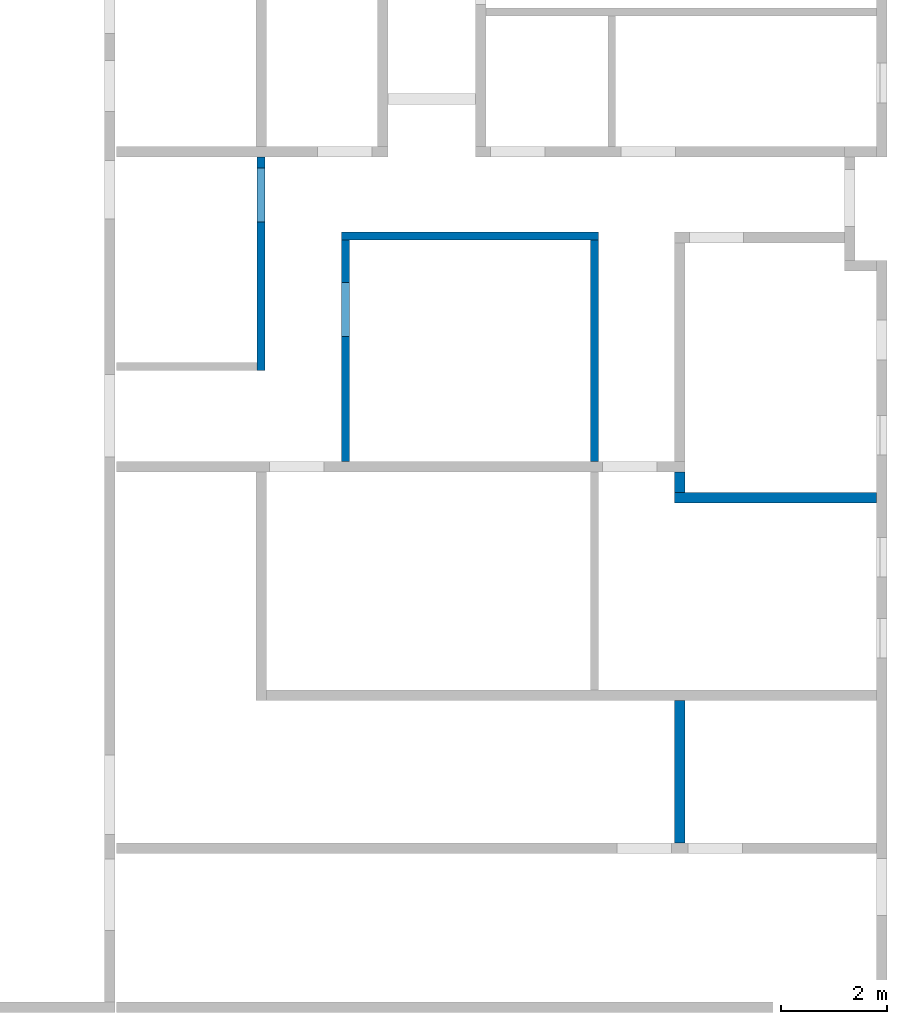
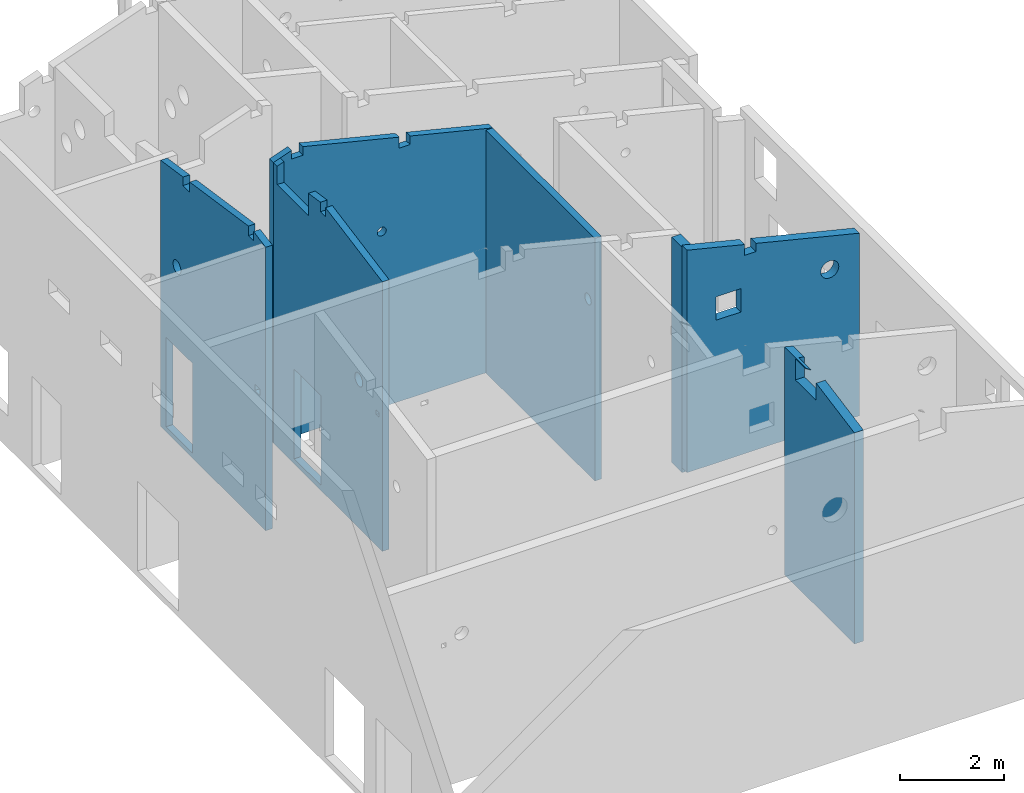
# One storey, part 7 of 13: 7 walls, 18 openings.
"""IFC2X3 building model written with IfcOpenShell, lengths in metres."""

from ifc_helpers import new_model, entity, si_unit, converted_unit, direction, frame, frame_2d, origin, origin_with_axes, place, context, subcontext, project, spatial, polyline, rectangle, outline, extrude, clip, halfspace, bounded_halfspace, material, layer, layer_set, layer_usage, element, save


model = new_model("IFC2X3")

# Units and contexts
model_context = context("Model", 3, precision=1e-05, world=origin(), true_north=direction((-0.407059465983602, -0.913401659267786)))
body_context = subcontext(model_context, "Body", "Model", "MODEL_VIEW")
ifc_project = project(units=[si_unit("LENGTHUNIT", "METRE"), si_unit("AREAUNIT", "SQUARE_METRE"), si_unit("VOLUMEUNIT", "CUBIC_METRE"), si_unit("MASSUNIT", "GRAM", prefix="KILO"), converted_unit("PLANEANGLEUNIT", "DEGREE", entity("IfcPlaneAngleMeasure", 0.0174532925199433), si_unit("PLANEANGLEUNIT", "RADIAN"), dimensions=[0, 0, 0, 0, 0, 0, 0])], contexts=[model_context])

# Site, buildings, storey
site_placement = place(None, origin())
site = spatial("IfcSite", under=ifc_project, at=site_placement, Name="Site", CompositionType="ELEMENT")
building_1_placement = place(site_placement, origin())
building_1 = spatial("IfcBuilding", under=site, at=building_1_placement, Name="Site", CompositionType="COMPLEX")
building_2_placement = place(building_1_placement, origin())
building_2 = spatial("IfcBuilding", under=building_1, at=building_2_placement, Name="Bâtiments", CompositionType="ELEMENT")
storey_placement = place(building_2_placement, frame((0.0, 0.0, -0.14)))
storey = spatial("IfcBuildingStorey", under=building_2, at=storey_placement, Name="RDC", CompositionType="ELEMENT", Elevation=-0.14)

# Wall, openings
ifc_material_1 = material(Name="Mur_Maconnerie")
ifc_layer_1 = layer(ifc_material_1, 0.15)
ifc_layer_set_1 = layer_set([ifc_layer_1])
ifc_layer_usage_1 = layer_usage(ifc_layer_set_1, "AXIS2", "POSITIVE", -0.15)
wall_1_placement = place(storey_placement, frame((66.0977270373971, -9.45744414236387, 0.02), z_axis=(0.0, 0.0, 1.0), x_axis=(0.0, -1.0, 0.0)))
wall_1 = element("IfcWallStandardCase", 1, at=wall_1_placement, inside=storey, material=ifc_layer_usage_1, context=body_context, shape_type="Clipping", body=[
    clip(clip(extrude(outline(polyline([(-4.03590318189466, 0.0), (0.0, 0.0), (-2.57926981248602e-06, 0.15), (-4.03590284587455, 0.15), (-4.03590318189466, 0.0)])), frame((4.03590318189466, 0.0, 0.0), z_axis=(0.0, 0.0, 1.0), x_axis=(1.0, 0.0, 0.0)), (0.0, 0.0, 1.0), 6.7565700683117), bounded_halfspace(frame((1.73045202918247, 0.075, 6.49887845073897), z_axis=(0.147291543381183, 2.15176853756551e-06, -0.989093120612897), x_axis=(0.989093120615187, 0.0, 0.147291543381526)), True, origin_with_axes(), polyline([(0.0, 0.0), (3.46090443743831, 0.0), (3.46090334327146, 0.15), (3.36020111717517e-07, 0.15), (0.0, 0.0)]))), bounded_halfspace(frame((3.74840289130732, 0.075, 6.70198659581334), z_axis=(-0.18652403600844, -2.90466630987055e-07, -0.982450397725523), x_axis=(0.982450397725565, 0.0, -0.186524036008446)), True, origin_with_axes(), polyline([(3.46090443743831, 0.0), (4.03590318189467, 0.0), (4.03590060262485, 0.15), (3.46090334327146, 0.15), (3.46090443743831, 0.0)]))),
])
opening_1_placement = place(wall_1_placement, frame((3.82014395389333, 0.15, 3.04), z_axis=(0.0, -1.0, 0.0), x_axis=(0.0, 0.0, 1.0)))
element("IfcOpeningElement", 2, at=opening_1_placement, cuts=wall_1, Name="Percement dans mur", ObjectType="Opening", context=body_context, shape_type="SweptSolid", body=[
    extrude(outline(polyline([(0.0, 0.2), (0.15, 0.2), (0.15, 0.0), (0.0, 0.0), (0.0, 0.2)])), origin_with_axes(), (0.0, 0.0, 1.0), 0.15),
])
opening_2_placement = place(wall_1_placement, frame((3.3735965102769, 0.0, 6.52), z_axis=(0.0, 1.0, 0.0), x_axis=(0.0, 0.0, 1.0)))
element("IfcOpeningElement", 3, at=opening_2_placement, cuts=wall_1, Name="Percement dans mur", ObjectType="Opening", context=body_context, shape_type="SweptSolid", body=[
    extrude(outline(polyline([(0.0, 0.2), (0.24, 0.2), (0.24, 0.0), (0.0, 0.0), (0.0, 0.2)])), origin_with_axes(), (0.0, 0.0, 1.0), 0.15),
])
opening_3_placement = place(wall_1_placement, frame((1.22962160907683, 0.15, 0.12), z_axis=(0.0, -1.0, 0.0), x_axis=(0.0, 0.0, 1.0)))
element("IfcOpeningElement", 4, at=opening_3_placement, cuts=wall_1, Name="Baie de porte", ObjectType="Opening", context=body_context, shape_type="SweptSolid", body=[
    extrude(outline(polyline([(0.0, 1.02), (2.1, 1.02), (2.1, 0.0), (0.0, 0.0), (0.0, 1.02)])), origin_with_axes(), (0.0, 0.0, 1.0), 0.15),
])
opening_4_placement = place(wall_1_placement, frame((0.864363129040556, 0.0, 6.17), z_axis=(0.0, 1.0, 0.0), x_axis=(0.0, 0.0, 1.0)))
element("IfcOpeningElement", 5, at=opening_4_placement, cuts=wall_1, Name="Percement dans mur", ObjectType="Opening", context=body_context, shape_type="SweptSolid", body=[
    extrude(outline(polyline([(0.0, 0.25), (0.24, 0.25), (0.24, 0.0), (0.0, 0.0), (0.0, 0.25)])), origin_with_axes(), (0.0, 0.0, 1.0), 0.15),
])
opening_5_placement = place(wall_1_placement, frame((0.780012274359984, 0.15, 3.97), z_axis=(0.0, -1.0, 0.0), x_axis=(0.0, 0.0, 1.0)))
element("IfcOpeningElement", 6, at=opening_5_placement, cuts=wall_1, Name="CVC-130", ObjectType="Opening", context=body_context, shape_type="SweptSolid", body=[
    extrude(outline(polyline([(0.149999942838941, 0.0), (0.134320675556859, 0.000821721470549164), (0.118813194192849, 0.00327787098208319), (0.103647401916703, 0.00734153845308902), (0.0889894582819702, 0.0129682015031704), (0.0749999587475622, 0.0200962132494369), (0.0618321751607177, 0.0286474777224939), (0.0496303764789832, 0.0385283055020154), (0.0385282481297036, 0.0496304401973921), (0.0286474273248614, 0.0618322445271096), (0.0200961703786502, 0.0750000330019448), (0.0129681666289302, 0.0889895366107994), (0.00734151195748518, 0.103647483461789), (0.00327785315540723, 0.118813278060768), (0.000821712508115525, 0.134320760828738), (0.0, 0.150000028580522), (0.000821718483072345, 0.165679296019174), (0.00327786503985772, 0.181186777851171), (0.00734152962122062, 0.196352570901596), (0.0129681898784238, 0.211010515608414), (0.0200961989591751, 0.225000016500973), (0.0286474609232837, 0.238167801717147), (0.0385282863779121, 0.250369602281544), (0.0496304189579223, 0.261471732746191), (0.0618322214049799, 0.271352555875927), (0.0750000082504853, 0.279903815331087), (0.0889895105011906, 0.287031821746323), (0.103647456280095, 0.292658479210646), (0.118813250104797, 0.296722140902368), (0.13432073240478, 0.299178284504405), (0.149999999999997, 0.3), (0.165679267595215, 0.299178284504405), (0.181186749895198, 0.296722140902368), (0.1963525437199, 0.292658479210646), (0.211010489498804, 0.287031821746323), (0.224999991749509, 0.279903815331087), (0.238167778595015, 0.271352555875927), (0.250369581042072, 0.261471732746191), (0.261471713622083, 0.250369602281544), (0.271352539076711, 0.238167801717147), (0.279903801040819, 0.225000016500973), (0.287031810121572, 0.211010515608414), (0.292658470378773, 0.196352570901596), (0.296722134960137, 0.181186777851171), (0.299178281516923, 0.165679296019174), (0.299999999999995, 0.150000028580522), (0.299178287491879, 0.134320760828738), (0.296722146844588, 0.118813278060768), (0.292658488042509, 0.103647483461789), (0.287031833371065, 0.0889895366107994), (0.279903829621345, 0.0750000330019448), (0.271352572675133, 0.0618322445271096), (0.261471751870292, 0.0496304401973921), (0.250369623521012, 0.0385283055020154), (0.238167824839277, 0.0286474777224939), (0.225000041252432, 0.0200962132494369), (0.211010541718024, 0.0129682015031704), (0.196352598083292, 0.00734153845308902), (0.181186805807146, 0.00327787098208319), (0.165679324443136, 0.000821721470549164), (0.149999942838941, 0.0)])), origin_with_axes(), (0.0, 0.0, 1.0), 0.15),
])

ifc_material_2 = material(Name="Mur_Maconnerie")
ifc_layer_2 = layer(ifc_material_2, 0.149999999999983)
ifc_layer_set_2 = layer_set([ifc_layer_2])
ifc_layer_usage_2 = layer_usage(ifc_layer_set_2, "AXIS2", "POSITIVE", -0.149999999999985)
wall_2_placement = place(storey_placement, frame((67.8429774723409, -15.2132553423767, 0.0199999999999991), z_axis=(0.0, 0.0, 1.0), x_axis=(6.32869772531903e-07, 0.9999999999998, 0.0)))
wall_2 = element("IfcWallStandardCase", 7, at=wall_2_placement, inside=storey, material=ifc_layer_usage_2, context=body_context, shape_type="Clipping", body=[
    clip(clip(clip(extrude(outline(polyline([(9.50006988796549e-08, -0.149999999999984), (4.18562001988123, -0.149999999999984), (4.18562024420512, -1.6359327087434e-15), (0.0, 0.0), (9.50006988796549e-08, -0.149999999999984)])), frame((-9.50006988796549e-08, 0.149999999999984, 0.0), z_axis=(0.0, 0.0, 1.0), x_axis=(1.0, 0.0, 0.0)), (0.0, 0.0, 1.0), 6.7565718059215), bounded_halfspace(frame((3.75236550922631, 0.0749999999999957, 6.60541648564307), z_axis=(2.11776796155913e-07, -0.33462934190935, -0.942349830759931), x_axis=(-0.999999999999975, 7.60647858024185e-15, -2.2473267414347e-07)), True, origin_with_axes(), polyline([(4.18562014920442, 0.149999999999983), (3.49771507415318, 0.149999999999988), (3.14050688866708, -2.7943897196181e-15), (4.18561992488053, 0.0), (4.18562014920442, 0.149999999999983)]))), bounded_halfspace(frame((2.80701494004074, 0.0749999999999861, 6.68031255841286), z_axis=(-0.147291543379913, -2.24498460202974e-06, -0.989093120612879), x_axis=(7.92731541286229e-06, -0.999999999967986, 1.08923851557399e-06)), True, origin_with_axes(), polyline([(2.2949183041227, 0.149999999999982), (2.29491949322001, -8.33171509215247e-15), (3.14050688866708, -2.79438841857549e-15), (3.49771507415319, 0.149999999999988), (2.2949183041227, 0.149999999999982)]))), bounded_halfspace(frame((1.1474594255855, 0.0749999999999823, 6.53871973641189), z_axis=(0.186524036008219, 4.08512054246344e-07, -0.982450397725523), x_axis=(0.982450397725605, -3.56679030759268e-15, 0.186524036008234)), True, origin_with_axes(), polyline([(0.0, 0.0), (2.29491949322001, -8.33171509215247e-15), (2.2949183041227, 0.149999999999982), (-9.50006988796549e-08, 0.149999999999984), (0.0, 0.0)]))),
])
opening_6_placement = place(wall_2_placement, frame((0.135286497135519, -5.16246741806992e-15, 3.07), z_axis=(5.68434188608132e-15, 1.0, 0.0), x_axis=(0.0, 0.0, 1.0)))
element("IfcOpeningElement", 8, at=opening_6_placement, cuts=wall_2, Name="PB-RDC-34", ObjectType="Opening", context=body_context, shape_type="SweptSolid", body=[
    extrude(outline(polyline([(0.0, 0.1), (0.1, 0.1), (0.1, 0.0), (0.0, 0.0), (0.0, 0.1)])), origin_with_axes(), (0.0, 0.0, 1.0), 0.149999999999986),
])
opening_7_placement = place(wall_2_placement, frame((0.755250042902, 8.60892889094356e-15, 3.33), z_axis=(5.30538576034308e-15, 1.0, 0.0), x_axis=(0.0, 0.0, 1.0)))
element("IfcOpeningElement", 9, at=opening_7_placement, cuts=wall_2, Name="CVC-102", ObjectType="Opening", context=body_context, shape_type="SweptSolid", body=[
    extrude(outline(polyline([(0.150000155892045, 0.0), (0.134320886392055, 0.000821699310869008), (0.118813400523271, 0.00327782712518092), (0.103647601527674, 0.00734147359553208), (0.0889896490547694, 0.0129681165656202), (0.0750001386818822, 0.0200961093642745), (0.0618323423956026, 0.0286473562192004), (0.049630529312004, 0.0385281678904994), (0.0385283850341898, 0.049630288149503), (0.0286475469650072, 0.0618320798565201), (0.0200962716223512, 0.0749998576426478), (0.0129682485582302, 0.0889893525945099), (0.00734157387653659, 0.103647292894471), (0.00327789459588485, 0.118813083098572), (0.000821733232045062, 0.134320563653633), (0.0, 0.149999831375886), (0.000821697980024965, 0.165679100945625), (0.00327782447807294, 0.181186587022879), (0.00734146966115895, 0.196352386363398), (0.0129681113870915, 0.211010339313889), (0.0200961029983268, 0.224999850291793), (0.0286473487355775, 0.238167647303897), (0.0385281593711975, 0.250369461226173), (0.0496302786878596, 0.261471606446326), (0.0618320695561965, 0.271352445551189), (0.0749998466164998, 0.279903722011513), (0.0889893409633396, 0.287031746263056), (0.103647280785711, 0.292658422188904), (0.11881307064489, 0.296722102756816), (0.134320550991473, 0.29917826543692), (0.14999981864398, 0.299999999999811), (0.165679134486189, 0.299178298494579), (0.181186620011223, 0.296722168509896), (0.196352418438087, 0.292658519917), (0.211010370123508, 0.28703187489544), (0.224999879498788, 0.279903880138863), (0.238167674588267, 0.271352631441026), (0.250369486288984, 0.261471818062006), (0.261471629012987, 0.250369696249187), (0.271352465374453, 0.238167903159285), (0.279903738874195, 0.225000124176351), (0.287031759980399, 0.211010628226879), (0.292658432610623, 0.196352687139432), (0.296722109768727, 0.181186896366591), (0.299178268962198, 0.165679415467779), (0.299999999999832, 0.150000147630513), (0.299178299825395, 0.134320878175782), (0.296722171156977, 0.118813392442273), (0.292658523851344, 0.103647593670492), (0.287031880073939, 0.0889896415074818), (0.279903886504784, 0.0750001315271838), (0.271352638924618, 0.0618323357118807), (0.261471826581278, 0.0496305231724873), (0.250369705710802, 0.0385283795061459), (0.238167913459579, 0.0286475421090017), (0.225000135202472, 0.0200962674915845), (0.21101063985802, 0.0129682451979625), (0.19635269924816, 0.00734157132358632), (0.181186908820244, 0.00327789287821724), (0.165679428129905, 0.000821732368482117), (0.150000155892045, 0.0)])), origin_with_axes(), (0.0, 0.0, 1.0), 0.149999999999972),
])
opening_8_placement = place(wall_2_placement, frame((2.36478815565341, 9.66482536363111e-16, 0.120000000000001), z_axis=(-6.06329801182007e-15, 1.0, 0.0), x_axis=(0.0, 0.0, 1.0)))
element("IfcOpeningElement", 10, at=opening_8_placement, cuts=wall_2, Name="Baie de porte", ObjectType="Opening", context=body_context, shape_type="SweptSolid", body=[
    extrude(outline(polyline([(0.0, 1.02), (2.1, 1.02), (2.1, 0.0), (0.0, 0.0), (0.0, 1.02)])), origin_with_axes(), (0.0, 0.0, 1.0), 0.149999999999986),
])
opening_9_placement = place(wall_2_placement, frame((4.04236882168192, 0.149999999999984, 6.15), z_axis=(-6.06329801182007e-15, -1.0, 0.0), x_axis=(0.0, 0.0, 1.0)))
element("IfcOpeningElement", 11, at=opening_9_placement, cuts=wall_2, Name="Percement dans mur", ObjectType="Opening", context=body_context, shape_type="SweptSolid", body=[
    extrude(outline(polyline([(0.0, 1.2), (0.53, 1.2), (0.53, 0.0), (0.0, 0.0), (0.0, 1.2)])), origin_with_axes(), (0.0, 0.0, 1.0), 0.149999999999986),
])
opening_10_placement = place(wall_2_placement, frame((2.18229105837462, -3.22686538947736e-15, 6.52), z_axis=(6.06329801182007e-15, 1.0, 0.0), x_axis=(0.0, 0.0, 1.0)))
element("IfcOpeningElement", 12, at=opening_10_placement, cuts=wall_2, Name="Percement dans mur", ObjectType="Opening", context=body_context, shape_type="SweptSolid", body=[
    extrude(outline(polyline([(0.0, 0.2), (0.24, 0.2), (0.24, 0.0), (0.0, 0.0), (0.0, 0.2)])), origin_with_axes(), (0.0, 0.0, 1.0), 0.149999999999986),
])

# Wall, opening
ifc_material_3 = material(Name="Mur_Maconnerie")
ifc_layer_3 = layer(ifc_material_3, 0.150000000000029)
ifc_layer_set_3 = layer_set([ifc_layer_3])
ifc_layer_usage_3 = layer_usage(ifc_layer_set_3, "AXIS2", "POSITIVE", -0.150000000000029)
wall_3_placement = place(storey_placement, frame((72.4030135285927, -11.0276451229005, 0.02), z_axis=(0.0, 0.0, 1.0), x_axis=(-2.15885355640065e-06, -0.99999999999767, 0.0)))
wall_3 = element("IfcWallStandardCase", 13, at=wall_3_placement, inside=storey, material=ifc_layer_usage_3, context=body_context, shape_type="SweptSolid", body=[
    extrude(outline(polyline([(-4.18561021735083, 0.0), (0.0, 0.0), (-3.23898266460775e-07, 0.150000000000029), (-4.18561022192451, 0.150000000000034), (-4.18561021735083, 0.0)])), frame((4.18561021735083, 0.0, 0.0), z_axis=(0.0, 0.0, 1.0), x_axis=(1.0, 0.0, 0.0)), (0.0, 0.0, 1.0), 5.69122823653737),
])
opening_11_placement = place(wall_3_placement, frame((3.80060990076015, 3.83454535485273e-14, 3.99), z_axis=(2.42531920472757e-14, 1.0, 0.0), x_axis=(0.0, 0.0, 1.0)))
element("IfcOpeningElement", 14, at=opening_11_placement, cuts=wall_3, Name="CVC-107", ObjectType="Opening", context=body_context, shape_type="SweptSolid", body=[
    extrude(outline(polyline([(0.124999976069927, 0.250000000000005), (0.138066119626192, 0.249315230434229), (0.150989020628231, 0.247268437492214), (0.163627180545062, 0.243882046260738), (0.175842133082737, 0.239193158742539), (0.187500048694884, 0.233253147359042), (0.198473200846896, 0.226127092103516), (0.208641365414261, 0.217893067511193), (0.21789313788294, 0.208641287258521), (0.226127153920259, 0.198473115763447), (0.233253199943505, 0.187499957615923), (0.239193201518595, 0.175842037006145), (0.243882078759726, 0.163627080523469), (0.247268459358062, 0.150988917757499), (0.249315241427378, 0.13806601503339), (0.249999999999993, 0.124999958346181), (0.24931523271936, 0.111933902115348), (0.247268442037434, 0.0990110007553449), (0.243882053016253, 0.0863728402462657), (0.239193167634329, 0.0741578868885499), (0.233253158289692, 0.0624999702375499), (0.226127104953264, 0.0515268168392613), (0.217893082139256, 0.041358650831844), (0.208641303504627, 0.0321068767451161), (0.198473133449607, 0.0238728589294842), (0.18749997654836, 0.016746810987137), (0.175842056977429, 0.0108068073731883), (0.163627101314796, 0.00611792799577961), (0.150988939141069, 0.0027315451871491), (0.138066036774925, 0.000684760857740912), (0.124999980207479, 0.0), (0.111933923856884, 0.000684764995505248), (0.0990110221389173, 0.00273155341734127), (0.086372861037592, 0.00611794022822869), (0.0741579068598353, 0.0108068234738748), (0.0624999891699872, 0.0167468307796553), (0.0515268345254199, 0.0238728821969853), (0.0413586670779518, 0.0321069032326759), (0.0321068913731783, 0.0413586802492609), (0.0238728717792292, 0.0515268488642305), (0.016746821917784, 0.0625000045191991), (0.0108068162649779, 0.0741579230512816), (0.0061179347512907, 0.0863728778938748), (0.00273154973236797, 0.0990110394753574), (0.000684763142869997, 0.111933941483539), (0.0, 0.124999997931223), (0.000684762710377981, 0.138066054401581), (0.0027315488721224, 0.150988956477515), (0.00611793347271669, 0.163627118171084), (0.0108068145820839, 0.175842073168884), (0.0167468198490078, 0.187499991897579), (0.0238728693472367, 0.198473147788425), (0.0321068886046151, 0.208641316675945), (0.0413586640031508, 0.217893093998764), (0.0515268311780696, 0.226127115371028), (0.0624999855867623, 0.233253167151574), (0.0741579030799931, 0.239193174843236), (0.0863728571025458, 0.243882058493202), (0.0990110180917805, 0.24726844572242), (0.111933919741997, 0.249315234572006), (0.124999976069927, 0.250000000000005)])), origin_with_axes(), (0.0, 0.0, 1.0), 0.150000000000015),
])

# Wall, openings
ifc_material_4 = material(Name="Béton")
ifc_layer_4 = layer(ifc_material_4, 0.200000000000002)
ifc_layer_set_4 = layer_set([ifc_layer_4])
ifc_layer_usage_4 = layer_usage(ifc_layer_set_4, "AXIS2", "POSITIVE", -0.1)
wall_4_placement = place(storey_placement, frame((73.9928349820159, -16.0044764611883, 0.14), z_axis=(0.0, 0.0, 1.0), x_axis=(1.0, 4.68192282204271e-10, 0.0)))
wall_4 = element("IfcWallStandardCase", 15, at=wall_4_placement, inside=storey, material=ifc_layer_usage_4, context=body_context, shape_type="Clipping", body=[
    clip(extrude(outline(polyline([(9.36561264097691e-11, -4.38490755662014e-20), (3.82027095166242, -4.38492016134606e-20), (3.82027099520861, 0.200000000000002), (9.3638456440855e-11, 0.200000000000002), (9.36561264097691e-11, -4.38490755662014e-20)])), frame((-9.36561264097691e-11, 4.38490755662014e-20, 0.0), z_axis=(0.0, 0.0, 1.0), x_axis=(1.0, 0.0, 0.0)), (0.0, 0.0, 1.0), 5.2175741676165), halfspace(frame((1.91013548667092, 0.100000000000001, 4.74839989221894), z_axis=(-0.238533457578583, 1.11682187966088e-10, -0.971134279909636), x_axis=(0.971134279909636, 0.0, -0.238533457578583)), True)),
])
opening_12_placement = place(wall_4_placement, frame((1.19500000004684, 0.19999999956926, 3.35), z_axis=(-4.68191956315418e-10, -1.0, 0.0), x_axis=(0.0, 0.0, 1.0)))
element("IfcOpeningElement", 16, at=opening_12_placement, cuts=wall_4, Name="CVC-105", ObjectType="Opening", context=body_context, shape_type="SweptSolid", body=[
    extrude(outline(polyline([(0.0, 0.55), (0.55, 0.55), (0.55, 0.0), (0.0, 0.0), (0.0, 0.55)])), origin_with_axes(), (0.0, 0.0, 1.0), 0.200000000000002),
])
opening_13_placement = place(wall_4_placement, frame((3.36412840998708, 0.200000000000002, 3.46), z_axis=(-4.68191956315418e-10, -1.0, 0.0), x_axis=(0.0, 0.0, 1.0)))
element("IfcOpeningElement", 17, at=opening_13_placement, cuts=wall_4, Name="CVC-118", ObjectType="Opening", context=body_context, shape_type="SweptSolid", body=[
    extrude(outline(polyline([(0.199999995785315, 0.4), (0.220905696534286, 0.398904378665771), (0.241582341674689, 0.395629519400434), (0.261803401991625, 0.390211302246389), (0.28134733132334, 0.382709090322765), (0.300000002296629, 0.373205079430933), (0.317557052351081, 0.361803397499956), (0.333826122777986, 0.348628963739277), (0.348628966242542, 0.33382611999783), (0.361803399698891, 0.317557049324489), (0.373205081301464, 0.299999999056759), (0.382709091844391, 0.281347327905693), (0.390211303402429, 0.261803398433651), (0.395629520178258, 0.241582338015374), (0.398904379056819, 0.220905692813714), (0.4, 0.200000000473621), (0.398904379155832, 0.179094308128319), (0.395629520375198, 0.158417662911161), (0.390211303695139, 0.138196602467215), (0.382709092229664, 0.118652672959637), (0.373205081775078, 0.100000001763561), (0.361803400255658, 0.0824429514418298), (0.348628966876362, 0.0661738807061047), (0.333826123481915, 0.0513710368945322), (0.317557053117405, 0.0381966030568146), (0.300000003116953, 0.0267949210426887), (0.281347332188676, 0.0172909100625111), (0.261803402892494, 0.00978869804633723), (0.241582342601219, 0.00437048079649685), (0.220905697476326, 0.00109562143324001), (0.199999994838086, 0.0), (0.179094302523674, 0.00109562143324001), (0.158417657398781, 0.00437048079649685), (0.138196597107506, 0.00978869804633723), (0.118652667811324, 0.0172909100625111), (0.0999999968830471, 0.0267949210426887), (0.0824429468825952, 0.0381966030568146), (0.0661738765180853, 0.0513710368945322), (0.0513710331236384, 0.0661738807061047), (0.0381965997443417, 0.0824429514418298), (0.0267949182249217, 0.100000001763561), (0.0172909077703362, 0.118652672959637), (0.00978869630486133, 0.138196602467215), (0.0043704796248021, 0.158417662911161), (0.00109562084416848, 0.179094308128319), (0.0, 0.200000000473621), (0.00109562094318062, 0.220905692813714), (0.00437047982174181, 0.241582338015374), (0.00978869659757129, 0.261803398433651), (0.0172909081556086, 0.281347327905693), (0.0267949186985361, 0.299999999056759), (0.0381966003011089, 0.317557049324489), (0.0513710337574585, 0.33382611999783), (0.0661738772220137, 0.348628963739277), (0.0824429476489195, 0.361803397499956), (0.0999999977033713, 0.373205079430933), (0.11865266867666, 0.382709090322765), (0.138196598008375, 0.390211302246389), (0.158417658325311, 0.395629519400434), (0.179094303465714, 0.398904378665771), (0.199999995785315, 0.4)])), origin_with_axes(), (0.0, 0.0, 1.0), 0.200000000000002),
])
opening_14_placement = place(wall_4_placement, frame((1.27734552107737, 3.83442383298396e-16, 4.65), z_axis=(4.68191956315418e-10, 1.0, 0.0), x_axis=(0.0, 0.0, 1.0)))
element("IfcOpeningElement", 18, at=opening_14_placement, cuts=wall_4, Name="Percement dans mur", ObjectType="Opening", context=body_context, shape_type="SweptSolid", body=[
    extrude(outline(polyline([(0.0, 0.25), (0.26, 0.25), (0.26, 0.0), (0.0, 0.0), (0.0, 0.25)])), origin_with_axes(), (0.0, 0.0, 1.0), 0.200000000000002),
])

# Wall
ifc_material_5 = material(Name="Béton")
ifc_layer_5 = layer(ifc_material_5, 0.200000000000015)
ifc_layer_set_5 = layer_set([ifc_layer_5])
ifc_layer_usage_5 = layer_usage(ifc_layer_set_5, "AXIS2", "POSITIVE", -0.1)
wall_5_placement = place(storey_placement, frame((73.992834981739, -15.4132553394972, 0.02), z_axis=(0.0, 0.0, 1.0), x_axis=(4.68262194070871e-10, -1.0, 0.0)))
element("IfcWallStandardCase", 19, at=wall_5_placement, inside=storey, material=ifc_layer_usage_5, context=body_context, shape_type="SweptSolid", body=[
    extrude(rectangle(XDim=0.391221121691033, YDim=0.200000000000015, at=frame_2d((0.195610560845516, 0.100000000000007), x_axis=(1.0, 0.0))), origin_with_axes(), (0.0, 0.0, 1.0), 5.28844945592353),
])

# Wall, opening
ifc_material_6 = material(Name="Béton")
ifc_layer_6 = layer(ifc_material_6, 0.2)
ifc_layer_set_6 = layer_set([ifc_layer_6])
ifc_layer_usage_6 = layer_usage(ifc_layer_set_6, "AXIS2", "POSITIVE", -0.1)
wall_6_placement = place(storey_placement, frame((74.1928660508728, -22.4314706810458, 0.02), z_axis=(0.0, 0.0, 1.0), x_axis=(-4.68210532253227e-10, 1.0, 0.0)))
wall_6 = element("IfcWallStandardCase", 20, at=wall_6_placement, inside=storey, material=ifc_layer_usage_6, context=body_context, shape_type="Clipping", body=[
    clip(clip(extrude(outline(polyline([(-9.36421070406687e-11, -0.200000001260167), (2.69145324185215, -0.200000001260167), (2.69145238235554, -1.2601663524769e-09), (8.69988143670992e-08, -1.26016679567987e-09), (-9.36421070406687e-11, -0.200000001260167)])), frame((9.36421070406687e-11, 0.200000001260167, 0.0), z_axis=(0.0, 0.0, 1.0), x_axis=(1.0, 0.0, 0.0)), (0.0, 0.0, 1.0), 5.33756653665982), bounded_halfspace(frame((2.21506441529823, 0.099999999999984, 5.31300418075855), z_axis=(1.11683961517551e-10, 0.238533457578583, -0.971134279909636), x_axis=(-1.0, 5.78169249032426e-15, -1.15001894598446e-10)), True, origin_with_axes(), polyline([(2.69145238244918, 0.199999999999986), (1.87040572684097, 0.199999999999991), (1.60694630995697, -1.15140350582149e-14), (2.69145324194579, -1.45519152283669e-14), (2.69145238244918, 0.199999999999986)]))), bounded_halfspace(frame((0.869338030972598, 0.0999999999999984, 5.11549385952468), z_axis=(0.186524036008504, 2.90379212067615e-07, -0.982450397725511), x_axis=(0.787542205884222, 0.597847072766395, 0.149519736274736)), True, origin_with_axes(), polyline([(1.60694630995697, 3.03788017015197e-15), (1.87040572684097, 0.200000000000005), (8.70924564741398e-08, 0.2), (0.0, 0.0), (1.60694630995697, 3.03788017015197e-15)]))),
])
opening_15_placement = place(wall_6_placement, frame((1.46589285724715, 9.15874325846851e-15, 4.82), z_axis=(2.27373675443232e-15, 1.0, 0.0), x_axis=(0.0, 0.0, 1.0)))
element("IfcOpeningElement", 21, at=opening_15_placement, cuts=wall_6, Name="Percement dans mur", ObjectType="Opening", context=body_context, shape_type="SweptSolid", body=[
    extrude(outline(polyline([(0.0, 0.8), (0.5, 0.8), (0.5, 0.0), (0.0, 0.0), (0.0, 0.8)])), origin_with_axes(), (0.0, 0.0, 1.0), 0.2),
])

# Wall, openings
ifc_material_7 = material(Name="Mur_Maconnerie")
ifc_layer_7 = layer(ifc_material_7, 0.15)
ifc_layer_set_7 = layer_set([ifc_layer_7])
ifc_layer_usage_7 = layer_usage(ifc_layer_set_7, "AXIS2", "POSITIVE", -0.15)
wall_7_placement = place(storey_placement, frame((67.6929801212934, -11.0276350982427, 0.0199999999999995), z_axis=(0.0, 0.0, 1.0), x_axis=(0.999999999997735, -2.12836237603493e-06, 0.0)))
wall_7 = element("IfcWallStandardCase", 22, at=wall_7_placement, inside=storey, material=ifc_layer_usage_7, context=body_context, shape_type="Clipping", body=[
    clip(clip(extrude(outline(polyline([(-2.201559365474e-11, 1.0343912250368e-05), (4.86003340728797, 1.0343912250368e-05), (4.86003341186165, 0.150010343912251), (-2.24345905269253e-07, 0.150010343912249), (-2.201559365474e-11, 1.0343912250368e-05)])), frame((2.201559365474e-11, -1.0343912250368e-05, 0.0), z_axis=(0.0, 0.0, 1.0), x_axis=(1.0, 0.0, 0.0)), (0.0, 0.0, 1.0), 6.75977521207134), bounded_halfspace(frame((0.254844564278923, 0.0749999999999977, 6.66927961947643), z_axis=(0.334629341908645, 7.12212500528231e-07, -0.942349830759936), x_axis=(0.942349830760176, -9.04879791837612e-16, 0.334629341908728)), True, origin_with_axes(), polyline([(0.0, 0.0), (0.509689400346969, -4.89422955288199e-16), (0.509689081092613, 0.149999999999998), (-2.24323889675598e-07, 0.149999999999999), (0.0, 0.0)]))), bounded_halfspace(frame((2.68486132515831, 0.0749999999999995, 6.22550170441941), z_axis=(-0.238533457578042, -5.0768563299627e-07, -0.971134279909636), x_axis=(3.04911792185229e-08, 0.999999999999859, -5.30265291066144e-07)), True, origin_with_axes(), polyline([(4.86003340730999, 1.73472347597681e-21), (4.86003341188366, 0.15), (0.509689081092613, 0.149999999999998), (0.509689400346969, -4.89422955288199e-16), (4.86003340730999, 1.73472347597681e-21)]))),
])
opening_16_placement = place(wall_7_placement, frame((2.5031016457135, 0.15, 4.02000000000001), z_axis=(-5.3520731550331e-11, -1.0, 0.0), x_axis=(0.0, 0.0, 1.0)))
element("IfcOpeningElement", 23, at=opening_16_placement, cuts=wall_7, Name="CVC-091", ObjectType="Opening", context=body_context, shape_type="SweptSolid", body=[
    extrude(outline(polyline([(0.099999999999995, 0.2), (0.110452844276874, 0.199452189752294), (0.120791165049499, 0.197814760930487), (0.1309016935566, 0.195105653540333), (0.140673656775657, 0.191354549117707), (0.149999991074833, 0.186602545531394), (0.158778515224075, 0.180901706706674), (0.166913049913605, 0.174314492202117), (0.174314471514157, 0.166913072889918), (0.18090168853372, 0.158778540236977), (0.186602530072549, 0.150000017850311), (0.191354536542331, 0.140673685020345), (0.19510564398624, 0.130901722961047), (0.197814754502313, 0.120791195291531), (0.199452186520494, 0.110452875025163), (0.19999999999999, 0.100000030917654), (0.199452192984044, 0.0895471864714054), (0.1978147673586, 0.0792088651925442), (0.195105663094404, 0.0690983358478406), (0.191354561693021, 0.0593263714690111), (0.186602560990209, 0.0500000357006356), (0.180901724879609, 0.0412215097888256), (0.174314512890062, 0.0330869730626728), (0.166913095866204, 0.0256855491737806), (0.158778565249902, 0.0190983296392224), (0.150000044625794, 0.0133974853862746), (0.140673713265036, 0.00864547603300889), (0.130901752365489, 0.00489436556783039), (0.120791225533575, 0.00218525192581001), (0.110452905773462, 0.000547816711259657), (0.0999999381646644, 0.0), (0.0895470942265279, 0.000547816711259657), (0.0792087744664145, 0.00218525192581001), (0.0690982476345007, 0.00489436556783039), (0.0593262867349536, 0.00864547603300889), (0.0499999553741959, 0.0133974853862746), (0.0412214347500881, 0.0190983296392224), (0.0330869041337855, 0.0256855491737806), (0.0256854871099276, 0.0330869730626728), (0.0190982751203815, 0.0412215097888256), (0.0133974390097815, 0.0500000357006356), (0.00864543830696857, 0.0593263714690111), (0.00489433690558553, 0.0690983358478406), (0.00218523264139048, 0.0792088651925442), (0.000547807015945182, 0.0895471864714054), (0.0, 0.100000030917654), (0.000547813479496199, 0.110452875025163), (0.00218524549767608, 0.120791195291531), (0.00489435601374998, 0.130901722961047), (0.00864546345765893, 0.140673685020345), (0.0133974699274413, 0.150000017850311), (0.0190983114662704, 0.158778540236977), (0.0256855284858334, 0.166913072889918), (0.0330869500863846, 0.174314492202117), (0.0412214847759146, 0.180901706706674), (0.0500000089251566, 0.186602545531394), (0.059326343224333, 0.191354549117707), (0.0690983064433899, 0.195105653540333), (0.0792088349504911, 0.197814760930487), (0.0895471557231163, 0.199452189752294), (0.099999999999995, 0.2)])), origin_with_axes(), (0.0, 0.0, 1.0), 0.15),
])
opening_17_placement = place(wall_7_placement, frame((2.78166103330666, 3.00332675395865e-16, 5.94), z_axis=(1.32786226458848e-12, 1.0, 0.0), x_axis=(0.0, 0.0, 1.0)))
element("IfcOpeningElement", 24, at=opening_17_placement, cuts=wall_7, Name="Percement dans mur", ObjectType="Opening", context=body_context, shape_type="SweptSolid", body=[
    extrude(outline(polyline([(0.0, 0.25), (0.26, 0.25), (0.26, 0.0), (0.0, 0.0), (0.0, 0.25)])), origin_with_axes(), (0.0, 0.0, 1.0), 0.15),
])
opening_18_placement = place(wall_7_placement, frame((0.406113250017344, 3.4539103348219e-16, 6.52), z_axis=(1.32710435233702e-12, 1.0, 0.0), x_axis=(0.0, 0.0, 1.0)))
element("IfcOpeningElement", 25, at=opening_18_placement, cuts=wall_7, Name="Percement dans mur", ObjectType="Opening", context=body_context, shape_type="SweptSolid", body=[
    extrude(outline(polyline([(0.0, 0.25), (0.24, 0.25), (0.24, 0.0), (0.0, 0.0), (0.0, 0.25)])), origin_with_axes(), (0.0, 0.0, 1.0), 0.149999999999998),
])

save(model, "model.ifc")
